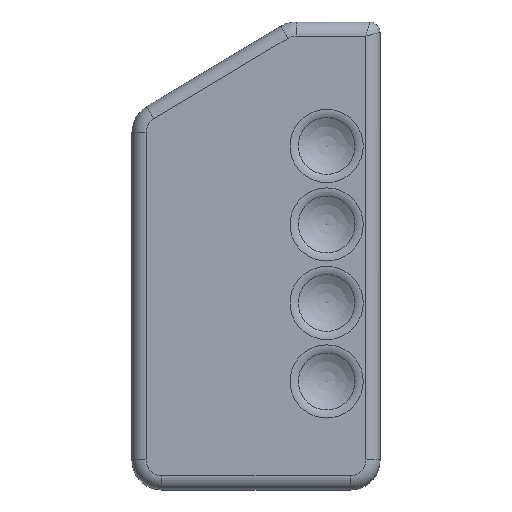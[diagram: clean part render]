
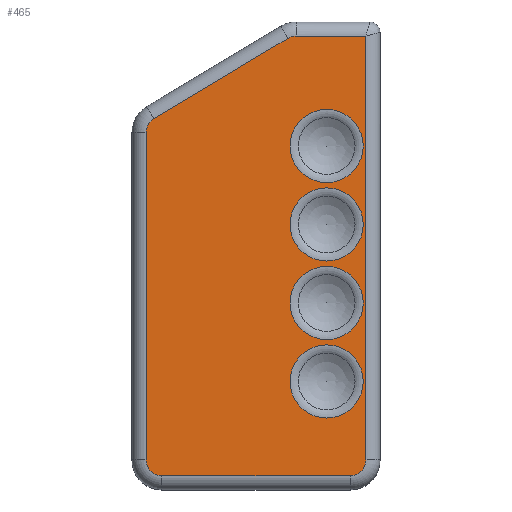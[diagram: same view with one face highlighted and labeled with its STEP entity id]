
A CAD part, top view. The second image highlights one B-rep face of the part: STEP entity #465.
In plain terms, the highlighted planar face has unit normal (0, 0, 1).
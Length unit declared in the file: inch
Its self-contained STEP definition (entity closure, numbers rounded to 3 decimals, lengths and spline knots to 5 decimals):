
#334=CARTESIAN_POINT('',(1.00435,1.49909,1.075));
#335=VERTEX_POINT('',#334);
#336=CARTESIAN_POINT('',(1.00435,2.08205,1.075));
#337=DIRECTION('',(0.0,0.0,1.0));
#338=DIRECTION('',(0.0,1.0,0.0));
#339=AXIS2_PLACEMENT_3D('',#336,#337,#338);
#340=CIRCLE('',#339,0.58296);
#341=EDGE_CURVE('',#335,#335,#340,.T.);
#346=CARTESIAN_POINT('',(0.00202,0.09803,1.075));
#347=DIRECTION('',(0.0,0.0,1.0));
#348=DIRECTION('',(1.0,0.0,0.0));
#349=AXIS2_PLACEMENT_3D('',#346,#347,#348);
#350=PLANE('',#349);
#351=CARTESIAN_POINT('',(1.62935,3.83205,1.075));
#352=VERTEX_POINT('',#351);
#353=CARTESIAN_POINT('',(1.62935,-2.91795,1.075));
#354=VERTEX_POINT('',#353);
#355=CARTESIAN_POINT('',(1.62935,3.83205,1.075));
#356=DIRECTION('',(0.0,-1.0,0.0));
#357=VECTOR('',#356,6.75);
#358=LINE('',#355,#357);
#359=EDGE_CURVE('',#352,#354,#358,.T.);
#360=ORIENTED_EDGE('',*,*,#359,.F.);
#361=CARTESIAN_POINT('',(0.51784,3.83205,1.075));
#362=VERTEX_POINT('',#361);
#363=CARTESIAN_POINT('',(0.51784,3.83205,1.075));
#364=DIRECTION('',(1.0,0.0,0.0));
#365=VECTOR('',#364,1.11151);
#366=LINE('',#363,#365);
#367=EDGE_CURVE('',#362,#352,#366,.T.);
#368=ORIENTED_EDGE('',*,*,#367,.F.);
#369=CARTESIAN_POINT('',(0.38921,3.79642,1.075));
#370=VERTEX_POINT('',#369);
#371=CARTESIAN_POINT('',(0.51784,3.58205,1.075));
#372=DIRECTION('',(0.0,0.0,-1.0));
#373=DIRECTION('',(-0.267,0.964,0.0));
#374=AXIS2_PLACEMENT_3D('',#371,#372,#373);
#375=CIRCLE('',#374,0.25);
#376=EDGE_CURVE('',#370,#362,#375,.T.);
#377=ORIENTED_EDGE('',*,*,#376,.F.);
#378=CARTESIAN_POINT('',(-1.74928,2.51333,1.075));
#379=VERTEX_POINT('',#378);
#380=CARTESIAN_POINT('',(-1.74928,2.51333,1.075));
#381=DIRECTION('',(0.857,0.514,0.0));
#382=VECTOR('',#381,2.49389);
#383=LINE('',#380,#382);
#384=EDGE_CURVE('',#379,#370,#383,.T.);
#385=ORIENTED_EDGE('',*,*,#384,.F.);
#386=CARTESIAN_POINT('',(-1.87065,2.29895,1.075));
#387=VERTEX_POINT('',#386);
#388=CARTESIAN_POINT('',(-1.62065,2.29895,1.075));
#389=DIRECTION('',(0.0,0.0,-1.));
#390=DIRECTION('',(-0.87,0.493,0.0));
#391=AXIS2_PLACEMENT_3D('',#388,#389,#390);
#392=CIRCLE('',#391,0.25);
#393=EDGE_CURVE('',#387,#379,#392,.T.);
#394=ORIENTED_EDGE('',*,*,#393,.F.);
#395=CARTESIAN_POINT('',(-1.87065,-2.91795,1.075));
#396=VERTEX_POINT('',#395);
#397=CARTESIAN_POINT('',(-1.87065,-2.91795,1.075));
#398=DIRECTION('',(0.0,1.0,0.0));
#399=VECTOR('',#398,5.2169);
#400=LINE('',#397,#399);
#401=EDGE_CURVE('',#396,#387,#400,.T.);
#402=ORIENTED_EDGE('',*,*,#401,.F.);
#403=CARTESIAN_POINT('',(-1.62065,-3.16795,1.075));
#404=VERTEX_POINT('',#403);
#405=CARTESIAN_POINT('',(-1.62065,-2.91795,1.075));
#406=DIRECTION('',(0.0,0.0,-1.));
#407=DIRECTION('',(-0.707,-0.707,0.0));
#408=AXIS2_PLACEMENT_3D('',#405,#406,#407);
#409=CIRCLE('',#408,0.25);
#410=EDGE_CURVE('',#404,#396,#409,.T.);
#411=ORIENTED_EDGE('',*,*,#410,.F.);
#412=CARTESIAN_POINT('',(1.37935,-3.16795,1.075));
#413=VERTEX_POINT('',#412);
#414=CARTESIAN_POINT('',(1.37935,-3.16795,1.075));
#415=DIRECTION('',(-1.0,0.0,0.0));
#416=VECTOR('',#415,3.0);
#417=LINE('',#414,#416);
#418=EDGE_CURVE('',#413,#404,#417,.T.);
#419=ORIENTED_EDGE('',*,*,#418,.F.);
#420=CARTESIAN_POINT('',(1.37935,-2.91795,1.075));
#421=DIRECTION('',(0.0,0.0,-1.));
#422=DIRECTION('',(0.707,-0.707,0.0));
#423=AXIS2_PLACEMENT_3D('',#420,#421,#422);
#424=CIRCLE('',#423,0.25);
#425=EDGE_CURVE('',#354,#413,#424,.T.);
#426=ORIENTED_EDGE('',*,*,#425,.F.);
#427=EDGE_LOOP('',(#360,#368,#377,#385,#394,#402,#411,#419,#426));
#428=FACE_OUTER_BOUND('',#427,.T.);
#429=CARTESIAN_POINT('',(1.00435,0.24909,1.075));
#430=VERTEX_POINT('',#429);
#431=CARTESIAN_POINT('',(1.00435,0.83205,1.075));
#432=DIRECTION('',(0.0,0.0,1.0));
#433=DIRECTION('',(0.0,1.0,0.0));
#434=AXIS2_PLACEMENT_3D('',#431,#432,#433);
#435=CIRCLE('',#434,0.58296);
#436=EDGE_CURVE('',#430,#430,#435,.T.);
#437=ORIENTED_EDGE('',*,*,#436,.F.);
#438=EDGE_LOOP('',(#437));
#439=FACE_BOUND('',#438,.T.);
#440=CARTESIAN_POINT('',(1.00435,-2.25091,1.075));
#441=VERTEX_POINT('',#440);
#442=CARTESIAN_POINT('',(1.00435,-1.66795,1.075));
#443=DIRECTION('',(0.0,0.0,1.0));
#444=DIRECTION('',(0.0,1.0,0.0));
#445=AXIS2_PLACEMENT_3D('',#442,#443,#444);
#446=CIRCLE('',#445,0.58296);
#447=EDGE_CURVE('',#441,#441,#446,.T.);
#448=ORIENTED_EDGE('',*,*,#447,.F.);
#449=EDGE_LOOP('',(#448));
#450=FACE_BOUND('',#449,.T.);
#451=CARTESIAN_POINT('',(1.00435,-1.00091,1.075));
#452=VERTEX_POINT('',#451);
#453=CARTESIAN_POINT('',(1.00435,-0.41795,1.075));
#454=DIRECTION('',(0.0,0.0,1.0));
#455=DIRECTION('',(0.0,1.0,0.0));
#456=AXIS2_PLACEMENT_3D('',#453,#454,#455);
#457=CIRCLE('',#456,0.58296);
#458=EDGE_CURVE('',#452,#452,#457,.T.);
#459=ORIENTED_EDGE('',*,*,#458,.F.);
#460=EDGE_LOOP('',(#459));
#461=FACE_BOUND('',#460,.T.);
#462=ORIENTED_EDGE('',*,*,#341,.F.);
#463=EDGE_LOOP('',(#462));
#464=FACE_BOUND('',#463,.T.);
#465=ADVANCED_FACE('',(#428,#439,#450,#461,#464),#350,.T.);
